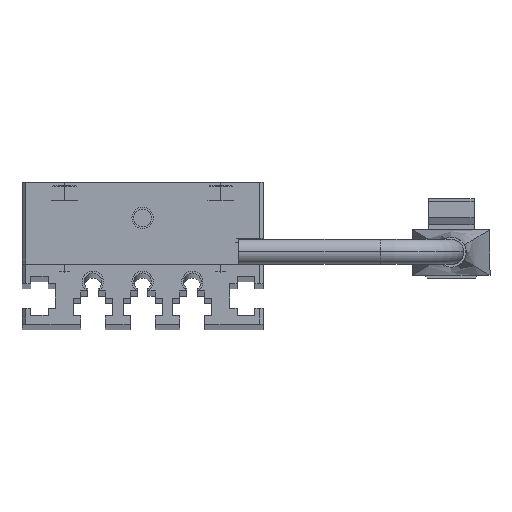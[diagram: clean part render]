
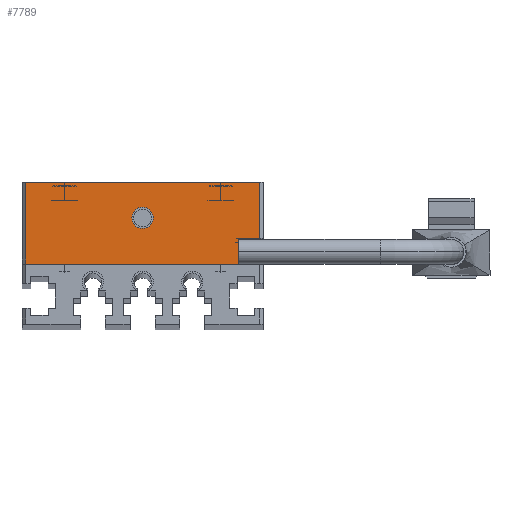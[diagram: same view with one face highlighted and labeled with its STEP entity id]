
A CAD part, top view. The second image highlights one B-rep face of the part: STEP entity #7789.
In plain terms, the highlighted planar face has unit normal (0, 0, 1) as drawn and (0, 0, -1) by its records, which use the part's own axes.
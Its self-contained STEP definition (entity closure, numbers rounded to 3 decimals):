
#95 = DIRECTION ( 'NONE',  ( 1., 0., 0. ) ) ;
#379 = VECTOR ( 'NONE', #3472, 1000. ) ;
#414 = DIRECTION ( 'NONE',  ( 0., 1., 0. ) ) ;
#649 = DIRECTION ( 'NONE',  ( -1., 0., 0. ) ) ;
#779 = EDGE_CURVE ( 'NONE', #7972, #9691, #4709, .T. ) ;
#1081 = CARTESIAN_POINT ( 'NONE',  ( -16.5, 3.6, 0. ) ) ;
#1087 = AXIS2_PLACEMENT_3D ( 'NONE', #11226, #6933, #649 ) ;
#1118 = VERTEX_POINT ( 'NONE', #2614 ) ;
#1719 = ORIENTED_EDGE ( 'NONE', *, *, #779, .T. ) ;
#1782 = DIRECTION ( 'NONE',  ( -1., 0., 0. ) ) ;
#2022 = CIRCLE ( 'NONE', #1087, 1.5 ) ;
#2145 = EDGE_LOOP ( 'NONE', ( #11058, #5583 ) ) ;
#2614 = CARTESIAN_POINT ( 'NONE',  ( -13.5, 3.6, 0. ) ) ;
#2815 = CARTESIAN_POINT ( 'NONE',  ( 16.5, 0., 0. ) ) ;
#2896 = EDGE_CURVE ( 'NONE', #1118, #9198, #3647, .T. ) ;
#2926 = ORIENTED_EDGE ( 'NONE', *, *, #2896, .F. ) ;
#3042 = VECTOR ( 'NONE', #11104, 1000. ) ;
#3055 = DIRECTION ( 'NONE',  ( -1., 0., 0. ) ) ;
#3068 = VERTEX_POINT ( 'NONE', #6559 ) ;
#3091 = LINE ( 'NONE', #8429, #3042 ) ;
#3315 = VERTEX_POINT ( 'NONE', #6302 ) ;
#3472 = DIRECTION ( 'NONE',  ( -1., 0., 0. ) ) ;
#3639 = PLANE ( 'NONE',  #8028 ) ;
#3647 = LINE ( 'NONE', #11433, #4286 ) ;
#4132 = ORIENTED_EDGE ( 'NONE', *, *, #10570, .F. ) ;
#4273 = FACE_OUTER_BOUND ( 'NONE', #10713, .T. ) ;
#4286 = VECTOR ( 'NONE', #4399, 1000. ) ;
#4399 = DIRECTION ( 'NONE',  ( 0., -1., 0. ) ) ;
#4709 = LINE ( 'NONE', #5580, #10133 ) ;
#5131 = CARTESIAN_POINT ( 'NONE',  ( -1.5, 6.5, 0. ) ) ;
#5209 = CARTESIAN_POINT ( 'NONE',  ( -17., 11.5, 0. ) ) ;
#5467 = VECTOR ( 'NONE', #10689, 1000. ) ;
#5484 = CARTESIAN_POINT ( 'NONE',  ( 0., 6.5, 0. ) ) ;
#5580 = CARTESIAN_POINT ( 'NONE',  ( -16.5, 11.5, 0. ) ) ;
#5583 = ORIENTED_EDGE ( 'NONE', *, *, #9496, .F. ) ;
#5749 = EDGE_CURVE ( 'NONE', #9198, #6542, #10465, .T. ) ;
#6302 = CARTESIAN_POINT ( 'NONE',  ( 1.5, 6.5, 0. ) ) ;
#6314 = LINE ( 'NONE', #10624, #379 ) ;
#6353 = DIRECTION ( 'NONE',  ( 0., 0., -1. ) ) ;
#6363 = VERTEX_POINT ( 'NONE', #5131 ) ;
#6542 = VERTEX_POINT ( 'NONE', #2815 ) ;
#6559 = CARTESIAN_POINT ( 'NONE',  ( 16.5, 11.5, 0. ) ) ;
#6795 = EDGE_CURVE ( 'NONE', #6363, #3315, #2022, .T. ) ;
#6933 = DIRECTION ( 'NONE',  ( 0., 0., -1. ) ) ;
#6983 = CARTESIAN_POINT ( 'NONE',  ( -17., 0., 0. ) ) ;
#7481 = CARTESIAN_POINT ( 'NONE',  ( -13.5, 0., 0. ) ) ;
#7753 = EDGE_CURVE ( 'NONE', #7972, #1118, #9799, .T. ) ;
#7789 = ADVANCED_FACE ( 'NONE', ( #4273, #9746 ), #3639, .T. ) ;
#7801 = AXIS2_PLACEMENT_3D ( 'NONE', #5484, #6353, #3055 ) ;
#7972 = VERTEX_POINT ( 'NONE', #1081 ) ;
#8028 = AXIS2_PLACEMENT_3D ( 'NONE', #5209, #11426, #1782 ) ;
#8357 = CIRCLE ( 'NONE', #7801, 1.5 ) ;
#8429 = CARTESIAN_POINT ( 'NONE',  ( 16.5, 0., 0. ) ) ;
#8440 = EDGE_CURVE ( 'NONE', #3068, #6542, #3091, .T. ) ;
#8656 = ORIENTED_EDGE ( 'NONE', *, *, #7753, .F. ) ;
#9198 = VERTEX_POINT ( 'NONE', #7481 ) ;
#9496 = EDGE_CURVE ( 'NONE', #3315, #6363, #8357, .T. ) ;
#9598 = ORIENTED_EDGE ( 'NONE', *, *, #5749, .F. ) ;
#9691 = VERTEX_POINT ( 'NONE', #11121 ) ;
#9746 = FACE_BOUND ( 'NONE', #2145, .T. ) ;
#9799 = LINE ( 'NONE', #10559, #10084 ) ;
#10084 = VECTOR ( 'NONE', #95, 1000. ) ;
#10133 = VECTOR ( 'NONE', #414, 1000. ) ;
#10465 = LINE ( 'NONE', #6983, #5467 ) ;
#10546 = ORIENTED_EDGE ( 'NONE', *, *, #8440, .T. ) ;
#10559 = CARTESIAN_POINT ( 'NONE',  ( -16.5, 3.6, 0. ) ) ;
#10570 = EDGE_CURVE ( 'NONE', #3068, #9691, #6314, .T. ) ;
#10624 = CARTESIAN_POINT ( 'NONE',  ( -17., 11.5, 0. ) ) ;
#10689 = DIRECTION ( 'NONE',  ( 1., 0., 0. ) ) ;
#10713 = EDGE_LOOP ( 'NONE', ( #2926, #8656, #1719, #4132, #10546, #9598 ) ) ;
#11058 = ORIENTED_EDGE ( 'NONE', *, *, #6795, .F. ) ;
#11104 = DIRECTION ( 'NONE',  ( 0., -1., 0. ) ) ;
#11121 = CARTESIAN_POINT ( 'NONE',  ( -16.5, 11.5, 0. ) ) ;
#11226 = CARTESIAN_POINT ( 'NONE',  ( 0., 6.5, 0. ) ) ;
#11426 = DIRECTION ( 'NONE',  ( 0., 0., -1. ) ) ;
#11433 = CARTESIAN_POINT ( 'NONE',  ( -13.5, 3., 0. ) ) ;
